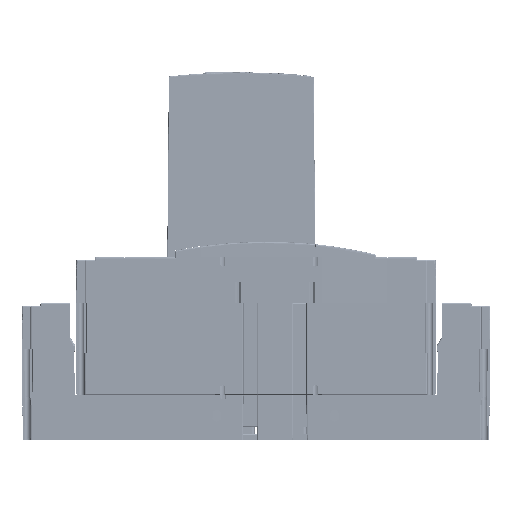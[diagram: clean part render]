
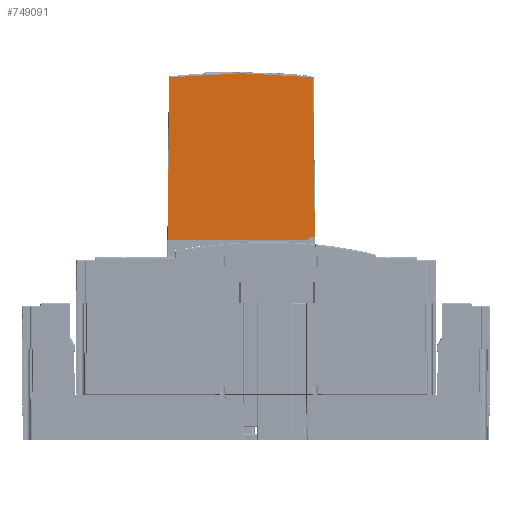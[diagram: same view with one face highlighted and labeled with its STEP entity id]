
A CAD part, left-side view. The second image highlights one B-rep face of the part: STEP entity #749091.
In plain terms, the highlighted planar face has unit normal (-1, 0, 0.009).
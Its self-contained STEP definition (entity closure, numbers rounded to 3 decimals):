
#89960 = CARTESIAN_POINT ( 'NONE',  ( -153.544, -38.753, 195.761 ) ) ;
#89965 = CARTESIAN_POINT ( 'NONE',  ( -153.544, -57.035, 195.761 ) ) ;
#89967 = CARTESIAN_POINT ( 'NONE',  ( -153.553, -75.288, 194.733 ) ) ;
#89971 = CARTESIAN_POINT ( 'NONE',  ( -153.571, -93.455, 192.681 ) ) ;
#90002 =( BOUNDED_CURVE ( )  B_SPLINE_CURVE ( 3, ( #89971, #89967, #89965, #89960 ),
 .UNSPECIFIED., .F., .T. ) 
 B_SPLINE_CURVE_WITH_KNOTS ( ( 4, 4 ),
 ( 6.171, 6.283 ),
 .UNSPECIFIED. ) 
 CURVE ( )  GEOMETRIC_REPRESENTATION_ITEM ( )  RATIONAL_B_SPLINE_CURVE ( ( 1., 0.999, 0.999, 1. ) ) 
 REPRESENTATION_ITEM ( '' )  );
#90021 = CARTESIAN_POINT ( 'NONE',  ( -153.571, -93.455, 192.681 ) ) ;
#92683 = CARTESIAN_POINT ( 'NONE',  ( -153.544, -38.753, 195.761 ) ) ;
#283963 = CARTESIAN_POINT ( 'NONE',  ( -154.66, -89.399, 67.988 ) ) ;
#284084 = CARTESIAN_POINT ( 'NONE',  ( -154.66, 17.737, 67.988 ) ) ;
#284115 = DIRECTION ( 'NONE',  ( 0., -1., 0. ) ) ;
#284119 = VECTOR ( 'NONE', #284115, 1000. ) ;
#284121 = CARTESIAN_POINT ( 'NONE',  ( -154.66, 18.037, 67.988 ) ) ;
#284124 = LINE ( 'NONE', #284121, #284119 ) ;
#306495 = DIRECTION ( 'NONE',  ( -1., 0., 0.009 ) ) ;
#309577 = CARTESIAN_POINT ( 'NONE',  ( -153.929, -93.813, 151.746 ) ) ;
#309585 = CARTESIAN_POINT ( 'NONE',  ( -154.286, -94.363, 110.813 ) ) ;
#309591 = CARTESIAN_POINT ( 'NONE',  ( -154.643, -94.726, 69.878 ) ) ;
#309644 = B_SPLINE_CURVE_WITH_KNOTS ( 'NONE', 3,
 ( #309591, #309585, #309577, #310110 ),
 .UNSPECIFIED., .F., .F.,
 ( 4, 4 ),
 ( 0.403, 0.599 ),
 .UNSPECIFIED. ) ;
#310110 = CARTESIAN_POINT ( 'NONE',  ( -153.571, -93.455, 192.681 ) ) ;
#310259 = CARTESIAN_POINT ( 'NONE',  ( -153.572, 16.449, 192.624 ) ) ;
#310263 = CARTESIAN_POINT ( 'NONE',  ( -153.554, -1.882, 194.714 ) ) ;
#310268 = CARTESIAN_POINT ( 'NONE',  ( -153.544, -20.303, 195.761 ) ) ;
#310273 = CARTESIAN_POINT ( 'NONE',  ( -153.544, -38.753, 195.761 ) ) ;
#310305 =( BOUNDED_CURVE ( )  B_SPLINE_CURVE ( 3, ( #310273, #310268, #310263, #310259 ),
 .UNSPECIFIED., .F., .T. ) 
 B_SPLINE_CURVE_WITH_KNOTS ( ( 4, 4 ),
 ( 0., 0.114 ),
 .UNSPECIFIED. ) 
 CURVE ( )  GEOMETRIC_REPRESENTATION_ITEM ( )  RATIONAL_B_SPLINE_CURVE ( ( 1., 0.999, 0.999, 1. ) ) 
 REPRESENTATION_ITEM ( '' )  );
#310336 = CARTESIAN_POINT ( 'NONE',  ( -153.572, 16.449, 192.624 ) ) ;
#310949 = CARTESIAN_POINT ( 'NONE',  ( -154.66, 18.037, 67.988 ) ) ;
#310951 = AXIS2_PLACEMENT_3D ( 'NONE', #310949, #306495, #311507 ) ;
#310973 = PLANE ( 'NONE',  #310951 ) ;
#311147 = FACE_OUTER_BOUND ( 'NONE', #749104, .T. ) ;
#311507 = DIRECTION ( 'NONE',  ( -0.009, 0., -1. ) ) ;
#312219 = CARTESIAN_POINT ( 'NONE',  ( -154.643, -94.726, 69.878 ) ) ;
#312227 = CARTESIAN_POINT ( 'NONE',  ( -154.63, -92.584, 71.341 ) ) ;
#312230 = CARTESIAN_POINT ( 'NONE',  ( -154.638, -90.14, 70.473 ) ) ;
#312234 = CARTESIAN_POINT ( 'NONE',  ( -154.66, -89.399, 67.988 ) ) ;
#312287 =( BOUNDED_CURVE ( )  B_SPLINE_CURVE ( 3, ( #312234, #312230, #312227, #312219 ),
 .UNSPECIFIED., .F., .F. ) 
 B_SPLINE_CURVE_WITH_KNOTS ( ( 4, 4 ),
 ( 5.002, 6.882 ),
 .UNSPECIFIED. ) 
 CURVE ( )  GEOMETRIC_REPRESENTATION_ITEM ( )  RATIONAL_B_SPLINE_CURVE ( ( 1., 0.727, 0.727, 1. ) ) 
 REPRESENTATION_ITEM ( '' )  );
#312422 = CARTESIAN_POINT ( 'NONE',  ( -154.643, -94.726, 69.878 ) ) ;
#314932 = CARTESIAN_POINT ( 'NONE',  ( -154.66, 17.737, 67.988 ) ) ;
#314938 = CARTESIAN_POINT ( 'NONE',  ( -154.297, 17.374, 109.534 ) ) ;
#314943 = CARTESIAN_POINT ( 'NONE',  ( -153.934, 16.813, 151.078 ) ) ;
#314949 = CARTESIAN_POINT ( 'NONE',  ( -153.572, 16.449, 192.624 ) ) ;
#314994 = B_SPLINE_CURVE_WITH_KNOTS ( 'NONE', 3,
 ( #314949, #314943, #314938, #314932 ),
 .UNSPECIFIED., .F., .F.,
 ( 4, 4 ),
 ( 0.401, 0.6 ),
 .UNSPECIFIED. ) ;
#701997 = EDGE_CURVE ( 'NONE', #702009, #702412, #90002, .T. ) ;
#702009 = VERTEX_POINT ( 'NONE', #90021 ) ;
#702412 = VERTEX_POINT ( 'NONE', #92683 ) ;
#744051 = VERTEX_POINT ( 'NONE', #283963 ) ;
#744117 = EDGE_CURVE ( 'NONE', #744129, #744051, #284124, .T. ) ;
#744129 = VERTEX_POINT ( 'NONE', #284084 ) ;
#748827 = ORIENTED_EDGE ( 'NONE', *, *, #748844, .T. ) ;
#748844 = EDGE_CURVE ( 'NONE', #749228, #702009, #309644, .T. ) ;
#748867 = ORIENTED_EDGE ( 'NONE', *, *, #701997, .T. ) ;
#748902 = ORIENTED_EDGE ( 'NONE', *, *, #748934, .T. ) ;
#748934 = EDGE_CURVE ( 'NONE', #702412, #748951, #310305, .T. ) ;
#748951 = VERTEX_POINT ( 'NONE', #310336 ) ;
#749091 = ADVANCED_FACE ( 'NONE', ( #311147 ), #310973, .T. ) ;
#749104 = EDGE_LOOP ( 'NONE', ( #749135, #749180, #748827, #748867, #748902, #749638 ) ) ;
#749135 = ORIENTED_EDGE ( 'NONE', *, *, #744117, .T. ) ;
#749180 = ORIENTED_EDGE ( 'NONE', *, *, #749201, .T. ) ;
#749201 = EDGE_CURVE ( 'NONE', #744051, #749228, #312287, .T. ) ;
#749228 = VERTEX_POINT ( 'NONE', #312422 ) ;
#749638 = ORIENTED_EDGE ( 'NONE', *, *, #749662, .T. ) ;
#749662 = EDGE_CURVE ( 'NONE', #748951, #744129, #314994, .T. ) ;
